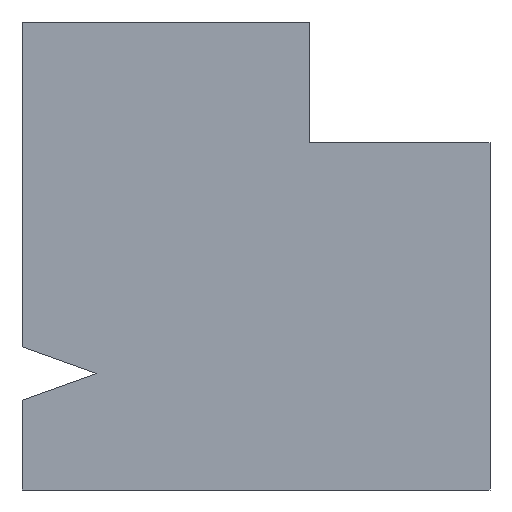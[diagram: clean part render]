
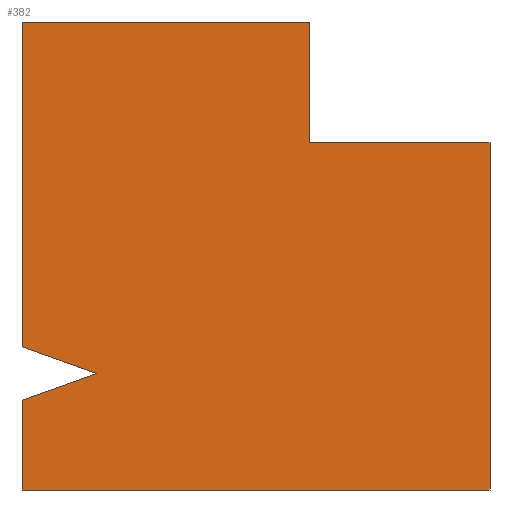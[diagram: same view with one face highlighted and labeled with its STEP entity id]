
A CAD part, left-side view. The second image highlights one B-rep face of the part: STEP entity #382.
In plain terms, the highlighted planar face has unit normal (-1, 0, 0).
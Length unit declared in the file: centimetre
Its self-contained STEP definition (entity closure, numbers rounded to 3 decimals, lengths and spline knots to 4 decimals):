
#9 = VERTEX_POINT ( 'NONE', #585 ) ;
#19 = ORIENTED_EDGE ( 'NONE', *, *, #160, .F. ) ;
#20 = CARTESIAN_POINT ( 'NONE',  ( 0., 1000., 1000. ) ) ;
#28 = CARTESIAN_POINT ( 'NONE',  ( 0., 0., 1000. ) ) ;
#44 = VECTOR ( 'NONE', #56, 100. ) ;
#56 = DIRECTION ( 'NONE',  ( 0., 0., -1. ) ) ;
#87 = ORIENTED_EDGE ( 'NONE', *, *, #132, .T. ) ;
#99 = CARTESIAN_POINT ( 'NONE',  ( 0., 1000., 1000. ) ) ;
#101 = VERTEX_POINT ( 'NONE', #617 ) ;
#106 = CARTESIAN_POINT ( 'NONE',  ( 0., 1000., 305.8092 ) ) ;
#111 = CARTESIAN_POINT ( 'NONE',  ( 0., 385.989, 742.3925 ) ) ;
#119 = DIRECTION ( 'NONE',  ( 0., 0., -1. ) ) ;
#120 = CARTESIAN_POINT ( 'NONE',  ( 0., 1000., 1000. ) ) ;
#131 = CARTESIAN_POINT ( 'NONE',  ( 0., 0., 742.3925 ) ) ;
#132 = EDGE_CURVE ( 'NONE', #419, #209, #184, .T. ) ;
#155 = EDGE_LOOP ( 'NONE', ( #190, #459, #204, #454, #533, #19, #469, #360, #87 ) ) ;
#160 = EDGE_CURVE ( 'NONE', #507, #290, #396, .T. ) ;
#168 = CARTESIAN_POINT ( 'NONE',  ( 0., 1000., 1000. ) ) ;
#182 = CARTESIAN_POINT ( 'NONE',  ( 0., 1000., 191.9337 ) ) ;
#184 = LINE ( 'NONE', #623, #656 ) ;
#190 = ORIENTED_EDGE ( 'NONE', *, *, #451, .T. ) ;
#204 = ORIENTED_EDGE ( 'NONE', *, *, #303, .T. ) ;
#209 = VERTEX_POINT ( 'NONE', #106 ) ;
#233 = VECTOR ( 'NONE', #557, 100. ) ;
#237 = DIRECTION ( 'NONE',  ( 0., -1., 0. ) ) ;
#255 = VERTEX_POINT ( 'NONE', #477 ) ;
#266 = LINE ( 'NONE', #111, #44 ) ;
#282 = CARTESIAN_POINT ( 'NONE',  ( 0., 0., 742.3925 ) ) ;
#287 = LINE ( 'NONE', #120, #582 ) ;
#290 = VERTEX_POINT ( 'NONE', #282 ) ;
#303 = EDGE_CURVE ( 'NONE', #620, #255, #287, .T. ) ;
#333 = DIRECTION ( 'NONE',  ( 0., 0., -1. ) ) ;
#345 = LINE ( 'NONE', #28, #233 ) ;
#360 = ORIENTED_EDGE ( 'NONE', *, *, #603, .F. ) ;
#382 = ADVANCED_FACE ( 'NONE', ( #597 ), #424, .F. ) ;
#383 = CARTESIAN_POINT ( 'NONE',  ( 0., 1000., 0. ) ) ;
#384 = CARTESIAN_POINT ( 'NONE',  ( 0., 385.989, 742.3925 ) ) ;
#393 = DIRECTION ( 'NONE',  ( 0., 0., -1. ) ) ;
#395 = LINE ( 'NONE', #659, #594 ) ;
#396 = LINE ( 'NONE', #131, #591 ) ;
#399 = DIRECTION ( 'NONE',  ( 0., 0.942, -0.336 ) ) ;
#418 = VECTOR ( 'NONE', #237, 100. ) ;
#419 = VERTEX_POINT ( 'NONE', #99 ) ;
#424 = PLANE ( 'NONE',  #682 ) ;
#438 = LINE ( 'NONE', #544, #492 ) ;
#441 = EDGE_CURVE ( 'NONE', #9, #507, #266, .T. ) ;
#451 = EDGE_CURVE ( 'NONE', #209, #101, #438, .T. ) ;
#454 = ORIENTED_EDGE ( 'NONE', *, *, #464, .T. ) ;
#459 = ORIENTED_EDGE ( 'NONE', *, *, #595, .T. ) ;
#464 = EDGE_CURVE ( 'NONE', #255, #625, #648, .T. ) ;
#469 = ORIENTED_EDGE ( 'NONE', *, *, #441, .F. ) ;
#477 = CARTESIAN_POINT ( 'NONE',  ( 0., 1000., 0. ) ) ;
#478 = DIRECTION ( 'NONE',  ( 0., -0.942, -0.336 ) ) ;
#492 = VECTOR ( 'NONE', #478, 100. ) ;
#507 = VERTEX_POINT ( 'NONE', #384 ) ;
#508 = LINE ( 'NONE', #20, #418 ) ;
#509 = DIRECTION ( 'NONE',  ( 0., -1., 0. ) ) ;
#531 = DIRECTION ( 'NONE',  ( 1., 0., 0. ) ) ;
#533 = ORIENTED_EDGE ( 'NONE', *, *, #652, .F. ) ;
#537 = DIRECTION ( 'NONE',  ( 0., -1., 0. ) ) ;
#544 = CARTESIAN_POINT ( 'NONE',  ( 0., 840.4922, 248.8715 ) ) ;
#557 = DIRECTION ( 'NONE',  ( 0., 0., -1. ) ) ;
#582 = VECTOR ( 'NONE', #119, 100. ) ;
#585 = CARTESIAN_POINT ( 'NONE',  ( 0., 385.989, 1000. ) ) ;
#591 = VECTOR ( 'NONE', #509, 100. ) ;
#594 = VECTOR ( 'NONE', #399, 100. ) ;
#595 = EDGE_CURVE ( 'NONE', #101, #620, #395, .T. ) ;
#597 = FACE_OUTER_BOUND ( 'NONE', #155, .T. ) ;
#603 = EDGE_CURVE ( 'NONE', #419, #9, #508, .T. ) ;
#617 = CARTESIAN_POINT ( 'NONE',  ( 0., 840.4922, 248.8715 ) ) ;
#620 = VERTEX_POINT ( 'NONE', #182 ) ;
#623 = CARTESIAN_POINT ( 'NONE',  ( 0., 1000., 1000. ) ) ;
#625 = VERTEX_POINT ( 'NONE', #662 ) ;
#644 = VECTOR ( 'NONE', #537, 100. ) ;
#648 = LINE ( 'NONE', #383, #644 ) ;
#652 = EDGE_CURVE ( 'NONE', #290, #625, #345, .T. ) ;
#656 = VECTOR ( 'NONE', #393, 100. ) ;
#659 = CARTESIAN_POINT ( 'NONE',  ( 0., 1000., 191.9337 ) ) ;
#662 = CARTESIAN_POINT ( 'NONE',  ( 0., 0., 0. ) ) ;
#682 = AXIS2_PLACEMENT_3D ( 'NONE', #168, #531, #333 ) ;
